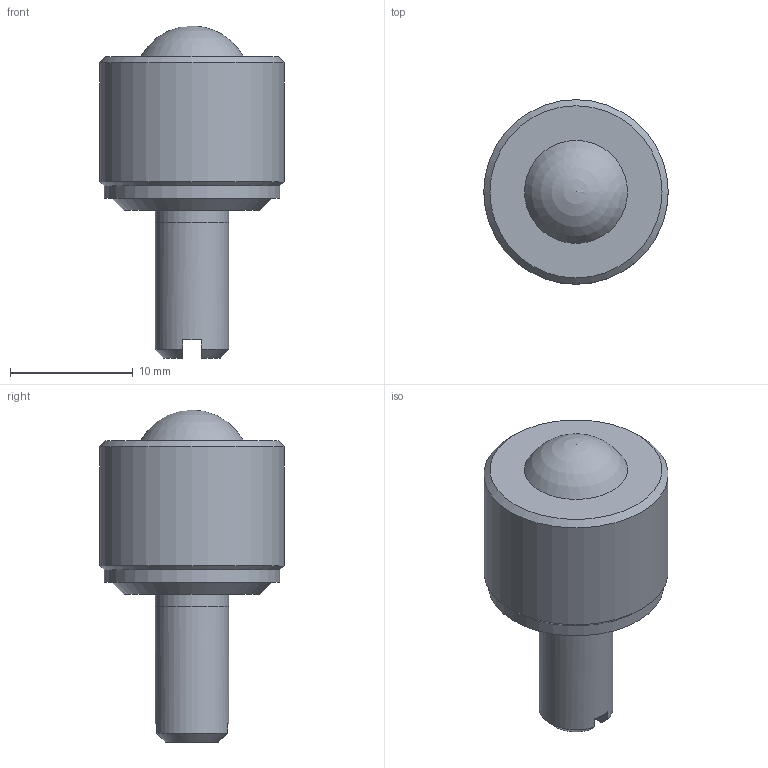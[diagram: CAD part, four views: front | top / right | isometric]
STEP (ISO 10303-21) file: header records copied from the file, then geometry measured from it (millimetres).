
FILE_DESCRIPTION(/* description */ (''),/* implementation_level */ '2;1');
FILE_NAME(/* name */ 'Z:\01-DesignData\標準品図面\90-CP-H・D(by ISB KOREA)\CP-09H.stp',/* time_stamp */ '2018-09-26T13:49:49+09:00',/* author */ ('m-susga'),/* organization */ (''),/* preprocessor_version */ 'ST-DEVELOPER v16.5',/* originating_system */ 'Autodesk Inventor 2017',/* authorisation */ '');
FILE_SCHEMA (('AUTOMOTIVE_DESIGN { 1 0 10303 214 3 1 1 }'));
Length unit declared in the file: millimetre
Products named in the file (1): CP-09H
Bounding box: 15 x 15 x 27 mm (x, y, z)
Volume: 2520.2 mm3; surface area: 1135.7 mm2
Topology: 1 solids, 1 shells, 19 faces, 40 edges, 26 vertices
Faces by surface type: plane 9, cone 5, cylinder 4, sphere 1
Full cylindrical faces by diameter (mm): 5.98 x1, 6 x1, 14.3 x1, 15 x1
Entity records: 474 total; most frequent: DIRECTION 82, CARTESIAN_POINT 80, ORIENTED_EDGE 58, AXIS2_PLACEMENT_3D 37, EDGE_LOOP 30, EDGE_CURVE 29, VERTEX_POINT 23, FACE_OUTER_BOUND 19
